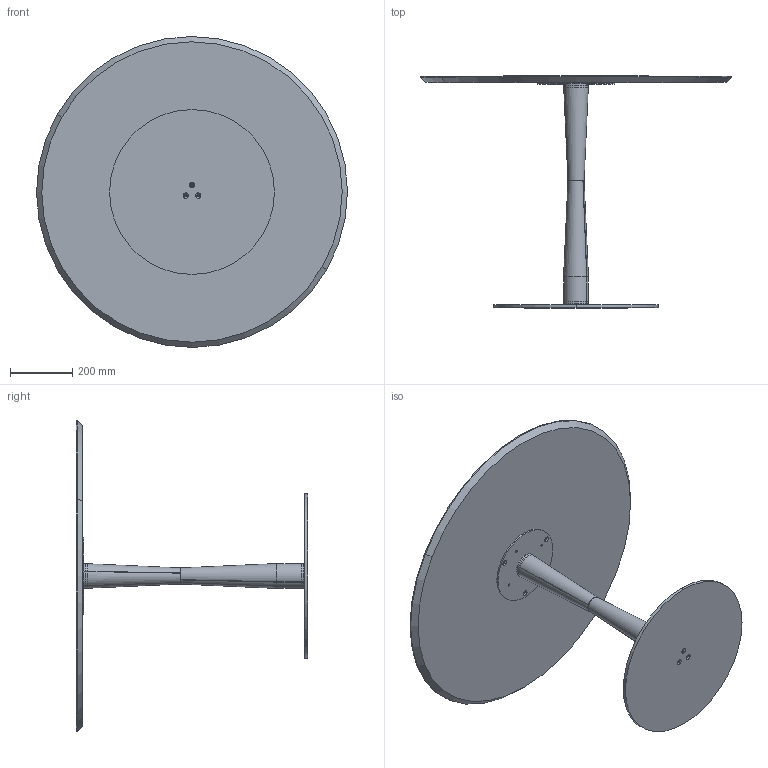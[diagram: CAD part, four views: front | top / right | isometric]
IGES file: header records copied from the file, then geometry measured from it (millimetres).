
Start section: SolidWorks IGES file using analytic representation for surfaces
Global section: file name: Y:\eforma\TECNICO\SOLIDWORKS\E-FORMA\5-TAVOLINI BISTRO\FILÚ\02 parts\FI30W.IGS; native system: SolidWorks 2022; preprocessor: SolidWorks 2022; author: eforma.tech; date: 240808.100004; units: millimetre
Bounding box: 1000 x 745 x 1000 mm (x, y, z)
Volume: 18037734.2 mm3; surface area: 2478799.2 mm2
Topology: 7 solids, 7 shells, 120 faces, 278 edges, 168 vertices
Faces by surface type: revolution 106, plane 14
